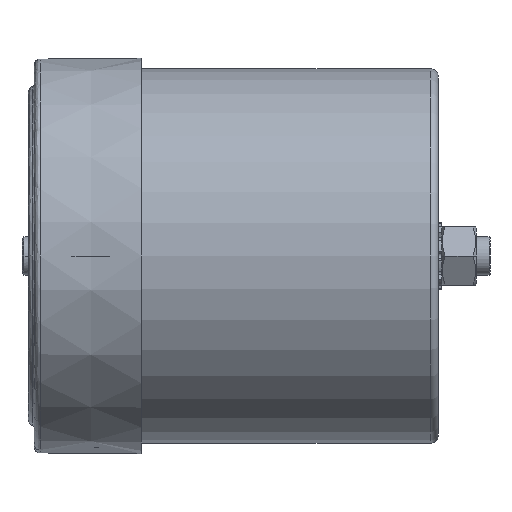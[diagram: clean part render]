
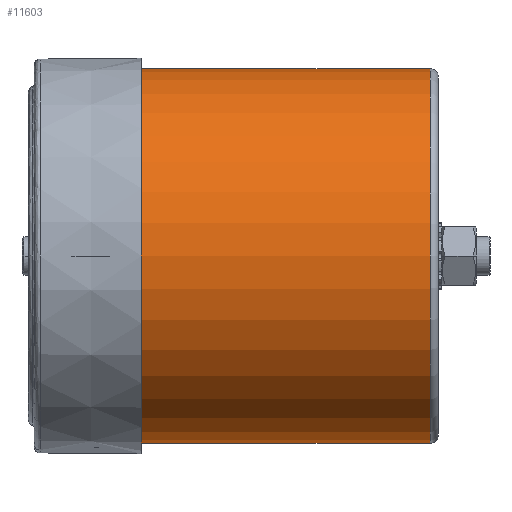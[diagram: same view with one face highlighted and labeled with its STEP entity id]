
A CAD part, left-side view. The second image highlights one B-rep face of the part: STEP entity #11603.
In plain terms, the highlighted cylindrical face has radius 58 mm (diameter 116 mm), a partial arc.
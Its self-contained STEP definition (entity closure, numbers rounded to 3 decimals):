
#78 = DIRECTION ( 'NONE',  ( 0., 1., 0. ) ) ;
#292 = VECTOR ( 'NONE', #9198, 1000. ) ;
#1279 = CARTESIAN_POINT ( 'NONE',  ( 0., 0., 0. ) ) ;
#2074 = FACE_OUTER_BOUND ( 'NONE', #13968, .T. ) ;
#2132 = AXIS2_PLACEMENT_3D ( 'NONE', #12867, #16050, #9624 ) ;
#3526 = DIRECTION ( 'NONE',  ( 0., 0., -1. ) ) ;
#4066 = VERTEX_POINT ( 'NONE', #13638 ) ;
#4483 = LINE ( 'NONE', #7588, #292 ) ;
#4675 = CARTESIAN_POINT ( 'NONE',  ( 0., -119.9, -58. ) ) ;
#5153 = DIRECTION ( 'NONE',  ( 0., -1., 0. ) ) ;
#5372 = ORIENTED_EDGE ( 'NONE', *, *, #13699, .F. ) ;
#6580 = VECTOR ( 'NONE', #5153, 1000. ) ;
#6627 = CARTESIAN_POINT ( 'NONE',  ( 0., -119.9, 0. ) ) ;
#7588 = CARTESIAN_POINT ( 'NONE',  ( 0., -122.4, 58. ) ) ;
#8415 = CARTESIAN_POINT ( 'NONE',  ( 0., -119.9, 58. ) ) ;
#8785 = EDGE_CURVE ( 'NONE', #4066, #11008, #9592, .T. ) ;
#9024 = ORIENTED_EDGE ( 'NONE', *, *, #8785, .F. ) ;
#9144 = DIRECTION ( 'NONE',  ( 0., 1., 0. ) ) ;
#9198 = DIRECTION ( 'NONE',  ( 0., -1., 0. ) ) ;
#9592 = CIRCLE ( 'NONE', #13998, 58. ) ;
#9624 = DIRECTION ( 'NONE',  ( 0., 0., -1. ) ) ;
#10570 = AXIS2_PLACEMENT_3D ( 'NONE', #6627, #78, #3526 ) ;
#11008 = VERTEX_POINT ( 'NONE', #12493 ) ;
#11560 = LINE ( 'NONE', #14435, #6580 ) ;
#11603 = ADVANCED_FACE ( 'NONE', ( #2074 ), #15671, .T. ) ;
#11642 = CIRCLE ( 'NONE', #10570, 58. ) ;
#12493 = CARTESIAN_POINT ( 'NONE',  ( 0., 0., 58. ) ) ;
#12867 = CARTESIAN_POINT ( 'NONE',  ( 0., -122.4, 0. ) ) ;
#13638 = CARTESIAN_POINT ( 'NONE',  ( 0., 0., -58. ) ) ;
#13677 = VERTEX_POINT ( 'NONE', #4675 ) ;
#13699 = EDGE_CURVE ( 'NONE', #11008, #15552, #4483, .T. ) ;
#13968 = EDGE_LOOP ( 'NONE', ( #5372, #9024, #20053, #18341 ) ) ;
#13998 = AXIS2_PLACEMENT_3D ( 'NONE', #1279, #9144, #18818 ) ;
#14435 = CARTESIAN_POINT ( 'NONE',  ( 0., -122.4, -58. ) ) ;
#15552 = VERTEX_POINT ( 'NONE', #8415 ) ;
#15671 = CYLINDRICAL_SURFACE ( 'NONE', #2132, 58. ) ;
#16050 = DIRECTION ( 'NONE',  ( 0., -1., 0. ) ) ;
#17978 = EDGE_CURVE ( 'NONE', #13677, #15552, #11642, .T. ) ;
#18341 = ORIENTED_EDGE ( 'NONE', *, *, #17978, .T. ) ;
#18818 = DIRECTION ( 'NONE',  ( 0., 0., -1. ) ) ;
#20053 = ORIENTED_EDGE ( 'NONE', *, *, #20429, .T. ) ;
#20429 = EDGE_CURVE ( 'NONE', #4066, #13677, #11560, .T. ) ;
